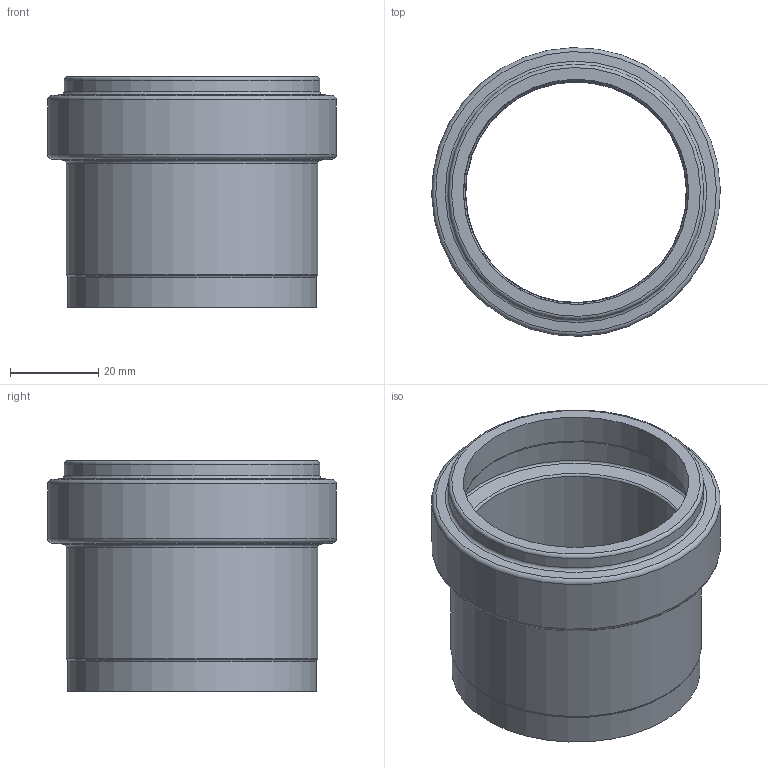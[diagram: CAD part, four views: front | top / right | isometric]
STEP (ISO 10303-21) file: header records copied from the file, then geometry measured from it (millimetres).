
FILE_DESCRIPTION(/* description */ (''),/* implementation_level */ '2;1');
FILE_NAME(/* name */ 'C:\Geberit-Teile\Export 2019\361.752.16.3\stp\361752.stp',/* time_stamp */ '2019-06-06T10:45:54+02:00',/* author */ ('JANAN'),/* organization */ (''),/* preprocessor_version */ 'ST-DEVELOPER v16.13',/* originating_system */ 'Autodesk Inventor 2018',/* authorisation */ '');
FILE_SCHEMA (('AUTOMOTIVE_DESIGN { 1 0 10303 214 3 1 1 }'));
Length unit declared in the file: millimetre
Products named in the file (1): StMuf mit LipDicht PE-HD d56/50 L5.2
Bounding box: 65.38 x 65.38 x 52.2 mm (x, y, z)
Volume: 32224.6 mm3; surface area: 21849.3 mm2
Topology: 1 solids, 1 shells, 28 faces, 54 edges, 28 vertices
Faces by surface type: torus 13, cylinder 8, cone 5, plane 2
Full cylindrical faces by diameter (mm): 49.95 x1, 50.95 x1, 51.05 x1, 56.25 x1, 56.95 x1, 57.85 x1, 59.8 x1, 65.4 x1
Entity records: 629 total; most frequent: DIRECTION 114, CARTESIAN_POINT 85, AXIS2_PLACEMENT_3D 57, EDGE_LOOP 56, ORIENTED_EDGE 56, STYLED_ITEM 29, FACE_BOUND 28, FACE_OUTER_BOUND 28
